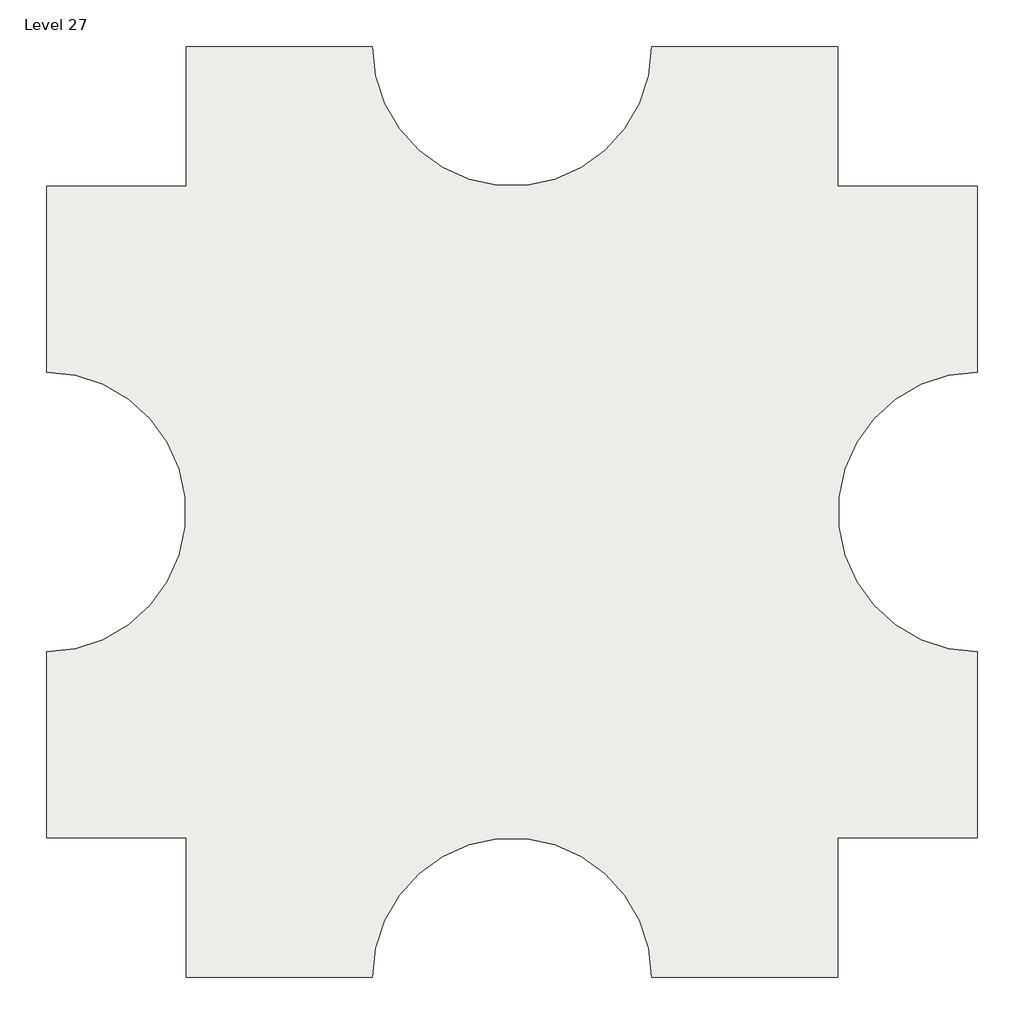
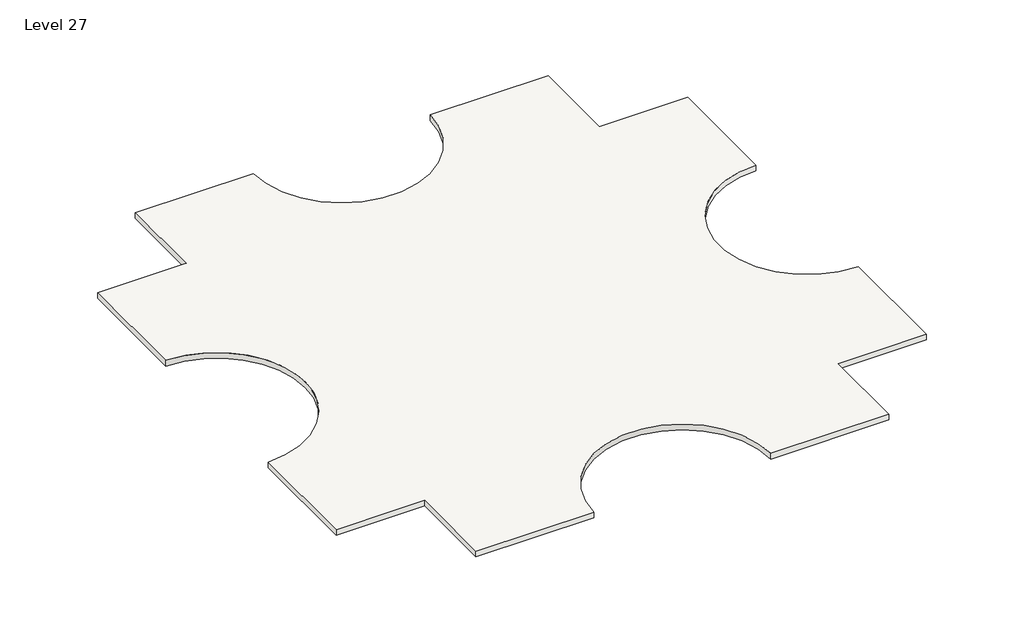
# One storey: 2 slabs.
"""IFC4 building model written with IfcOpenShell, lengths in millimetres."""

import ifcopenshell
import ifcopenshell.guid

model = None  # the IFC model being written
_history = None  # IfcOwnerHistory: only IFC2X3 demands one
_inside = {}  # id of a spatial element -> (the spatial element, [elements in it])
_under = {}  # id of a project, library or spatial element -> (it, [spatial elements below it])
_declared = {}  # id of a project -> (the project, [libraries it declares])
_typed = {}  # id of a type object -> (the type object, [elements of that type])
_made_of = {}  # id of a material, layer set ... -> (it, [elements and type objects made of it])


def new_model(schema):
    """Start an empty IFC model of exactly this schema.

    Asked for "IFC4X3", IfcOpenShell would pick the latest addendum, in which some entities
    have other attributes; the version numbers below select the first issue.
    IFC2X3 requires an IfcOwnerHistory on every rooted entity: one is made here for all.
    """
    global model, _history
    if schema == "IFC4X3":
        model = ifcopenshell.file(schema_version=(4, 3, 0, 0))
    else:
        model = ifcopenshell.file(schema=schema)
    _inside.clear()
    _under.clear()
    _declared.clear()
    _typed.clear()
    _made_of.clear()
    _history = None
    if model.schema == "IFC2X3":
        org = make("IfcOrganization", Name="unknown")
        user = make(
            "IfcPersonAndOrganization",
            ThePerson=make("IfcPerson", FamilyName="unknown"),
            TheOrganization=org,
        )
        app = make(
            "IfcApplication",
            ApplicationDeveloper=org,
            Version="unknown",
            ApplicationFullName="unknown",
            ApplicationIdentifier="unknown",
        )
        _history = make(
            "IfcOwnerHistory",
            OwningUser=user,
            OwningApplication=app,
            ChangeAction="ADDED",
            CreationDate=0,
        )
    return model


def make(cls, **values):
    """One entity of the class cls with the attributes given. An attribute that is None is left unset."""
    return model.create_entity(
        cls, **{name: value for name, value in values.items() if value is not None}
    )


def rooted(cls, **values):
    """An entity with a GlobalId (a new one), such as an element, a storey or a relation."""
    return make(cls, GlobalId=ifcopenshell.guid.new(), OwnerHistory=_history, **values)


def si_unit(unit_type, name, prefix=None):
    """IfcSIUnit, for example si_unit("LENGTHUNIT", "METRE", prefix="MILLI")."""
    return make("IfcSIUnit", UnitType=unit_type, Prefix=prefix, Name=name)


def assignment(units):
    """IfcUnitAssignment: the units of a project."""
    return None if units is None else make("IfcUnitAssignment", Units=units)


def point(xyz):
    """IfcCartesianPoint."""
    return None if xyz is None else make("IfcCartesianPoint", Coordinates=xyz)


def direction(xyz):
    """IfcDirection."""
    return None if xyz is None else make("IfcDirection", DirectionRatios=xyz)


def frame(location, z_axis=None, x_axis=None):
    """IfcAxis2Placement3D, a coordinate frame: its origin and axes. An axis left out is left unset."""
    return make(
        "IfcAxis2Placement3D",
        Location=point(location),
        Axis=direction(z_axis),
        RefDirection=direction(x_axis),
    )


def frame_2d(location, x_axis=None):
    """IfcAxis2Placement2D, a coordinate frame in the plane: its origin and x axis."""
    return make(
        "IfcAxis2Placement2D", Location=point(location), RefDirection=direction(x_axis)
    )


def origin():
    """The frame at (0, 0, 0) with its axes left unset."""
    return frame((0.0, 0.0, 0.0))


def place(relative_to, where):
    """IfcLocalPlacement: puts the frame where relative to a parent placement (None: the world)."""
    return make(
        "IfcLocalPlacement", PlacementRelTo=relative_to, RelativePlacement=where
    )


def context(
    kind, dimensions, precision=None, world=None, true_north=None, identifier=None
):
    """IfcGeometricRepresentationContext, for example the 3D "Model" context."""
    return make(
        "IfcGeometricRepresentationContext",
        ContextIdentifier=identifier,
        ContextType=kind,
        CoordinateSpaceDimension=dimensions,
        Precision=precision,
        WorldCoordinateSystem=world,
        TrueNorth=true_north,
    )


def project(units=None, contexts=None):
    """IfcProject with its units and contexts."""
    return rooted(
        "IfcProject",
        Name="project",
        RepresentationContexts=contexts,
        UnitsInContext=assignment(units),
    )


def spatial(cls, under=None, at=None, **own):
    """A site, building, storey or space (cls), placed at a placement, below another one or the project."""
    s = rooted(cls, ObjectPlacement=at, **own)
    if under is not None:
        _under.setdefault(under.id(), (under, []))[1].append(s)
    return s


def polyline(points):
    """IfcPolyline through the points."""
    return make("IfcPolyline", Points=[point(p) for p in points])


def circle_curve(where, radius):
    """IfcCircle in the frame where."""
    return make("IfcCircle", Position=where, Radius=radius)


def trimmed(basis, trim1, trim2, sense, master):
    """IfcTrimmedCurve: the piece of a basis curve between two trims."""
    return make(
        "IfcTrimmedCurve",
        BasisCurve=basis,
        Trim1=trim1,
        Trim2=trim2,
        SenseAgreement=sense,
        MasterRepresentation=master,
    )


def segment(curve, same_sense, transition):
    """IfcCompositeCurveSegment."""
    return make(
        "IfcCompositeCurveSegment",
        Transition=transition,
        SameSense=same_sense,
        ParentCurve=curve,
    )


def composite_curve(segments, self_intersect=None):
    """IfcCompositeCurve: segments joined end to end."""
    return make("IfcCompositeCurve", Segments=segments, SelfIntersect=self_intersect)


def outline(outer, holes=None, kind="AREA"):
    """IfcArbitraryClosedProfileDef: a profile drawn as a closed curve; with holes, ...WithVoids."""
    if holes is None:
        return make("IfcArbitraryClosedProfileDef", ProfileType=kind, OuterCurve=outer)
    return make(
        "IfcArbitraryProfileDefWithVoids",
        ProfileType=kind,
        OuterCurve=outer,
        InnerCurves=holes,
    )


def extrude(swept, where, along, depth):
    """IfcExtrudedAreaSolid: the profile swept, set in the frame where, extruded along a direction by depth."""
    return make(
        "IfcExtrudedAreaSolid",
        SweptArea=swept,
        Position=where,
        ExtrudedDirection=direction(along),
        Depth=depth,
    )


def shape(context_of_items, identifier, shape_type, items):
    """IfcShapeRepresentation: the items that make up one representation, for example the "Body"."""
    return make(
        "IfcShapeRepresentation",
        ContextOfItems=context_of_items,
        RepresentationIdentifier=identifier,
        RepresentationType=shape_type,
        Items=items,
    )


def made_of(thing, what):
    """Note that an element or type object is made of a material, layer set ...; save() writes the relation."""
    if what is not None:
        _made_of.setdefault(what.id(), (what, []))[1].append(thing)
    return thing


def element(
    cls,
    number,
    at=None,
    inside=None,
    cuts=None,
    type_object=None,
    material=None,
    context=None,
    identifier="Body",
    shape_type=None,
    held_by="IfcProductDefinitionShape",
    body=None,
    shapes=None,
    **own,
):
    """One element of the class cls, such as IfcWall. Its Tag is "e" and its number.

    at: its placement. inside: the storey or other place that contains it. cuts: it is an
    opening in that element (IfcRelVoidsElement). A single representation is given by context,
    identifier, shape_type and body (its items); several are given by shapes. held_by: the class
    of the entity that holds the representations. save() writes the other relations.
    """
    e = rooted(cls, Tag="e%d" % number, ObjectPlacement=at, **own)
    if body is not None:
        shapes = [shape(context, identifier, shape_type, body)]
    if shapes is not None:
        e.Representation = make(held_by, Representations=shapes)
    if inside is not None:
        _inside.setdefault(inside.id(), (inside, []))[1].append(e)
    if cuts is not None:
        rooted(
            "IfcRelVoidsElement", RelatingBuildingElement=cuts, RelatedOpeningElement=e
        )
    if type_object is not None:
        _typed.setdefault(type_object.id(), (type_object, []))[1].append(e)
    return made_of(e, material)


def aggregate(whole, parts):
    """IfcRelAggregates: a whole, such as a stair, and the parts it consists of."""
    return rooted("IfcRelAggregates", RelatingObject=whole, RelatedObjects=parts)


def save(model, path):
    """Write the relations noted so far, then the file.

    IfcRelAggregates (storeys below a building ...), IfcRelContainedInSpatialStructure (elements
    in a storey), IfcRelDefinesByType, IfcRelAssociatesMaterial and IfcRelDeclares: one each for
    every whole, place, type object, material and project.
    """
    for whole, parts in _under.values():
        aggregate(whole, parts)
    for where, things in _inside.values():
        rooted(
            "IfcRelContainedInSpatialStructure",
            RelatedElements=things,
            RelatingStructure=where,
        )
    for kind, things in _typed.values():
        rooted("IfcRelDefinesByType", RelatedObjects=things, RelatingType=kind)
    for what, things in _made_of.values():
        rooted("IfcRelAssociatesMaterial", RelatedObjects=things, RelatingMaterial=what)
    for by, libraries in _declared.values():
        rooted("IfcRelDeclares", RelatingContext=by, RelatedDefinitions=libraries)
    model.write(path)


model = new_model("IFC4")

# Units and contexts
model_context = context("Model", 3, world=origin())
ifc_project = project(units=[si_unit("LENGTHUNIT", "METRE", prefix="MILLI")], contexts=[model_context])

# Site, building, storey
site = spatial("IfcSite", under=ifc_project)
building = spatial("IfcBuilding", under=site)
storey = spatial("IfcBuildingStorey", under=building, Name="Level 27", Elevation=79248.0)

# Slabs
placement = place(None, origin())
element("IfcSlab", 1, ObjectType="Generic - 12\"", at=placement, inside=storey, context=model_context, shape_type="SweptSolid", body=[
    extrude(outline(composite_curve([segment(polyline([(-7150.3629456, 4479.6634547), (-7150.3629456, 9051.6634547), (-1054.3629456, 9051.6634547)]), True, "CONTINUOUS"), segment(trimmed(circle_curve(frame_2d((3517.6370544, 9051.6634547)), 4572.0), [point((-1054.3629456, 9051.6634547))], [point((8089.6370544, 9051.6634547))], True, "CARTESIAN"), True, "CONTINUOUS"), segment(polyline([(8089.6370544, 9051.6634547), (14185.6370544, 9051.6634547), (14185.6370544, 4479.6634547), (18757.6370544, 4479.6634547), (18757.6370544, -1616.3365453)]), True, "CONTINUOUS"), segment(trimmed(circle_curve(frame_2d((18757.6370544, -6188.3365453)), 4572.0), [point((18757.6370544, -1616.3365453))], [point((18757.6370544, -10760.3365453))], True, "CARTESIAN"), True, "CONTINUOUS"), segment(polyline([(18757.6370544, -10760.3365453), (18757.6370544, -16856.3365453), (14185.6370544, -16856.3365453), (14185.6370544, -21428.3365453), (8089.6370544, -21428.3365453)]), True, "CONTINUOUS"), segment(trimmed(circle_curve(frame_2d((3517.6370544, -21428.3365453)), 4572.0), [point((8089.6370544, -21428.3365453))], [point((-1054.3629456, -21428.3365453))], True, "CARTESIAN"), True, "CONTINUOUS"), segment(polyline([(-1054.3629456, -21428.3365453), (-7150.3629456, -21428.3365453), (-7150.3629456, -16856.3365453), (-11722.3629456, -16856.3365453), (-11722.3629456, -10760.3365453)]), True, "CONTINUOUS"), segment(trimmed(circle_curve(frame_2d((-11722.3629456, -6188.3365453)), 4572.0), [point((-11722.3629456, -10760.3365453))], [point((-11722.3629456, -1616.3365453))], True, "CARTESIAN"), True, "CONTINUOUS"), segment(polyline([(-11722.3629456, -1616.3365453), (-11722.3629456, 4479.6634547), (-7150.3629456, 4479.6634547)]), True, "CONTINUOUS")], self_intersect=False)), frame((0.0, 0.0, 78943.2), z_axis=(0.0, 0.0, 1.0), x_axis=(1.0, 0.0, 0.0)), (0.0, 0.0, 1.0), 304.8),
])
element("IfcSlab", 2, ObjectType="Generic - 12\"", at=placement, inside=storey, context=model_context, shape_type="SweptSolid", body=[
    extrude(outline(composite_curve([segment(polyline([(-7150.3629456, 4479.6634547), (-7150.3629456, 9051.6634547), (-1054.3629456, 9051.6634547)]), True, "CONTINUOUS"), segment(trimmed(circle_curve(frame_2d((3517.6370544, 9051.6634547)), 4572.0), [point((-1054.3629456, 9051.6634547))], [point((8089.6370544, 9051.6634547))], True, "CARTESIAN"), True, "CONTINUOUS"), segment(polyline([(8089.6370544, 9051.6634547), (14185.6370544, 9051.6634547), (14185.6370544, 4479.6634547), (18757.6370544, 4479.6634547), (18757.6370544, -1616.3365453)]), True, "CONTINUOUS"), segment(trimmed(circle_curve(frame_2d((18757.6370544, -6188.3365453)), 4572.0), [point((18757.6370544, -1616.3365453))], [point((18757.6370544, -10760.3365453))], True, "CARTESIAN"), True, "CONTINUOUS"), segment(polyline([(18757.6370544, -10760.3365453), (18757.6370544, -16856.3365453), (14185.6370544, -16856.3365453), (14185.6370544, -21428.3365453), (8089.6370544, -21428.3365453)]), True, "CONTINUOUS"), segment(trimmed(circle_curve(frame_2d((3517.6370544, -21428.3365453)), 4572.0), [point((8089.6370544, -21428.3365453))], [point((-1054.3629456, -21428.3365453))], True, "CARTESIAN"), True, "CONTINUOUS"), segment(polyline([(-1054.3629456, -21428.3365453), (-7150.3629456, -21428.3365453), (-7150.3629456, -16856.3365453), (-11722.3629456, -16856.3365453), (-11722.3629456, -10760.3365453)]), True, "CONTINUOUS"), segment(trimmed(circle_curve(frame_2d((-11722.3629456, -6188.3365453)), 4572.0), [point((-11722.3629456, -10760.3365453))], [point((-11722.3629456, -1616.3365453))], True, "CARTESIAN"), True, "CONTINUOUS"), segment(polyline([(-11722.3629456, -1616.3365453), (-11722.3629456, 4479.6634547), (-7150.3629456, 4479.6634547)]), True, "CONTINUOUS")], self_intersect=False)), frame((0.0, 0.0, 78943.2), z_axis=(0.0, 0.0, 1.0), x_axis=(1.0, 0.0, 0.0)), (0.0, 0.0, 1.0), 304.8),
])

save(model, "model.ifc")
